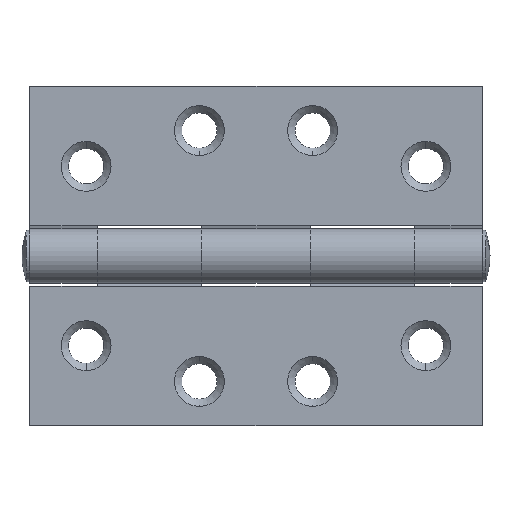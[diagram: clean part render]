
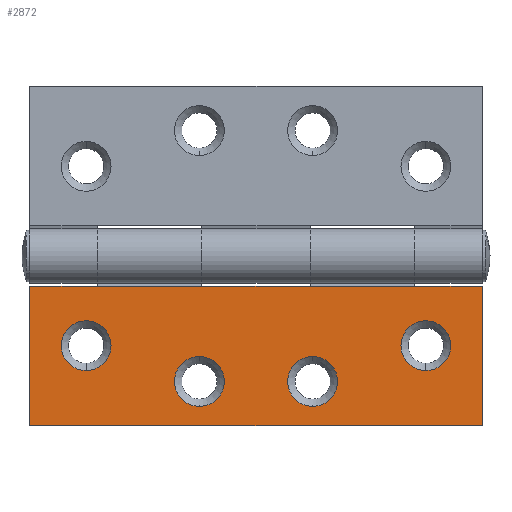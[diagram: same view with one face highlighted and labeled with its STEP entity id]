
A CAD part, left-side view. The second image highlights one B-rep face of the part: STEP entity #2872.
In plain terms, the highlighted planar face has unit normal (-1, 0, 0) as drawn and (0, 1, 0) by its records, which use the part's own axes.
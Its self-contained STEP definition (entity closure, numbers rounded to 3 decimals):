
#4 = DIRECTION ( 'NONE',  ( 0., 0., 1. ) ) ;
#58 = DIRECTION ( 'NONE',  ( 0., 0., -1. ) ) ;
#81 = VECTOR ( 'NONE', #1318, 1000. ) ;
#94 = VERTEX_POINT ( 'NONE', #283 ) ;
#100 = EDGE_LOOP ( 'NONE', ( #782, #1548 ) ) ;
#126 = DIRECTION ( 'NONE',  ( 0., 0., 1. ) ) ;
#178 = AXIS2_PLACEMENT_3D ( 'NONE', #209, #501, #2369 ) ;
#180 = VERTEX_POINT ( 'NONE', #817 ) ;
#209 = CARTESIAN_POINT ( 'NONE',  ( -12.5, 0., -21.07 ) ) ;
#220 = DIRECTION ( 'NONE',  ( -1., 0., 0. ) ) ;
#229 = EDGE_LOOP ( 'NONE', ( #1377, #965, #2638, #2717, #3442, #3188, #1193, #497 ) ) ;
#252 = VECTOR ( 'NONE', #2982, 1000. ) ;
#261 = EDGE_CURVE ( 'NONE', #1985, #2275, #1360, .T. ) ;
#283 = CARTESIAN_POINT ( 'NONE',  ( -12., 0., 0. ) ) ;
#289 = ORIENTED_EDGE ( 'NONE', *, *, #261, .T. ) ;
#291 = CARTESIAN_POINT ( 'NONE',  ( 50., 0., 0. ) ) ;
#317 = VECTOR ( 'NONE', #58, 1000. ) ;
#332 = AXIS2_PLACEMENT_3D ( 'NONE', #2202, #1605, #4 ) ;
#346 = VERTEX_POINT ( 'NONE', #906 ) ;
#394 = EDGE_CURVE ( 'NONE', #1931, #518, #1702, .T. ) ;
#408 = CIRCLE ( 'NONE', #1979, 5.5 ) ;
#429 = DIRECTION ( 'NONE',  ( 0., -1., 0. ) ) ;
#438 = EDGE_CURVE ( 'NONE', #94, #856, #2796, .T. ) ;
#472 = DIRECTION ( 'NONE',  ( 0., -1., 0. ) ) ;
#475 = ORIENTED_EDGE ( 'NONE', *, *, #3021, .T. ) ;
#489 = AXIS2_PLACEMENT_3D ( 'NONE', #1773, #429, #2311 ) ;
#497 = ORIENTED_EDGE ( 'NONE', *, *, #394, .T. ) ;
#501 = DIRECTION ( 'NONE',  ( 0., -1., 0. ) ) ;
#518 = VERTEX_POINT ( 'NONE', #1442 ) ;
#568 = DIRECTION ( 'NONE',  ( -1., 0., 0. ) ) ;
#661 = ORIENTED_EDGE ( 'NONE', *, *, #2881, .T. ) ;
#673 = CARTESIAN_POINT ( 'NONE',  ( 37.5, 0., -13.17 ) ) ;
#681 = DIRECTION ( 'NONE',  ( 0., -1., 0. ) ) ;
#754 = EDGE_CURVE ( 'NONE', #2044, #998, #2003, .T. ) ;
#757 = CARTESIAN_POINT ( 'NONE',  ( 37.5, 0., -7.67 ) ) ;
#782 = ORIENTED_EDGE ( 'NONE', *, *, #2786, .T. ) ;
#783 = FACE_OUTER_BOUND ( 'NONE', #229, .T. ) ;
#796 = DIRECTION ( 'NONE',  ( -1., 0., 0. ) ) ;
#817 = CARTESIAN_POINT ( 'NONE',  ( -12.5, 0., -26.57 ) ) ;
#856 = VERTEX_POINT ( 'NONE', #908 ) ;
#871 = ORIENTED_EDGE ( 'NONE', *, *, #1077, .T. ) ;
#877 = ORIENTED_EDGE ( 'NONE', *, *, #1611, .T. ) ;
#902 = VERTEX_POINT ( 'NONE', #2764 ) ;
#906 = CARTESIAN_POINT ( 'NONE',  ( -37.5, 0., -18.67 ) ) ;
#908 = CARTESIAN_POINT ( 'NONE',  ( -35., 0., 0. ) ) ;
#939 = LINE ( 'NONE', #1100, #252 ) ;
#952 = AXIS2_PLACEMENT_3D ( 'NONE', #2116, #472, #2343 ) ;
#958 = ORIENTED_EDGE ( 'NONE', *, *, #3004, .T. ) ;
#965 = ORIENTED_EDGE ( 'NONE', *, *, #2147, .F. ) ;
#998 = VERTEX_POINT ( 'NONE', #2293 ) ;
#1077 = EDGE_CURVE ( 'NONE', #1446, #180, #2790, .T. ) ;
#1100 = CARTESIAN_POINT ( 'NONE',  ( -50., 0., 0. ) ) ;
#1118 = AXIS2_PLACEMENT_3D ( 'NONE', #3066, #1724, #2279 ) ;
#1193 = ORIENTED_EDGE ( 'NONE', *, *, #1802, .T. ) ;
#1249 = CARTESIAN_POINT ( 'NONE',  ( 12.5, 0., -26.57 ) ) ;
#1318 = DIRECTION ( 'NONE',  ( -1., 0., 0. ) ) ;
#1360 = CIRCLE ( 'NONE', #1595, 5.5 ) ;
#1377 = ORIENTED_EDGE ( 'NONE', *, *, #2677, .F. ) ;
#1400 = CIRCLE ( 'NONE', #178, 5.5 ) ;
#1413 = DIRECTION ( 'NONE',  ( 0., -1., 0. ) ) ;
#1415 = VERTEX_POINT ( 'NONE', #1461 ) ;
#1427 = CARTESIAN_POINT ( 'NONE',  ( 50., 0., -30.87 ) ) ;
#1442 = CARTESIAN_POINT ( 'NONE',  ( -50., 0., -30.87 ) ) ;
#1446 = VERTEX_POINT ( 'NONE', #3052 ) ;
#1461 = CARTESIAN_POINT ( 'NONE',  ( -37.5, 0., -7.67 ) ) ;
#1548 = ORIENTED_EDGE ( 'NONE', *, *, #754, .T. ) ;
#1584 = CIRCLE ( 'NONE', #3030, 5.5 ) ;
#1595 = AXIS2_PLACEMENT_3D ( 'NONE', #673, #681, #2278 ) ;
#1605 = DIRECTION ( 'NONE',  ( 0., -1., 0. ) ) ;
#1606 = EDGE_LOOP ( 'NONE', ( #877, #958 ) ) ;
#1611 = EDGE_CURVE ( 'NONE', #1415, #346, #1945, .T. ) ;
#1628 = FACE_BOUND ( 'NONE', #1606, .T. ) ;
#1702 = LINE ( 'NONE', #3377, #3324 ) ;
#1710 = AXIS2_PLACEMENT_3D ( 'NONE', #3275, #2956, #1970 ) ;
#1724 = DIRECTION ( 'NONE',  ( 0., 1., 0. ) ) ;
#1735 = CARTESIAN_POINT ( 'NONE',  ( 37.5, 0., -13.17 ) ) ;
#1773 = CARTESIAN_POINT ( 'NONE',  ( -37.5, 0., -13.17 ) ) ;
#1793 = FACE_BOUND ( 'NONE', #100, .T. ) ;
#1802 = EDGE_CURVE ( 'NONE', #2010, #1931, #2563, .T. ) ;
#1893 = CARTESIAN_POINT ( 'NONE',  ( -50., 0., 0. ) ) ;
#1915 = LINE ( 'NONE', #291, #3083 ) ;
#1927 = EDGE_LOOP ( 'NONE', ( #289, #661 ) ) ;
#1931 = VERTEX_POINT ( 'NONE', #1427 ) ;
#1945 = CIRCLE ( 'NONE', #332, 5.5 ) ;
#1970 = DIRECTION ( 'NONE',  ( 0., 0., 1. ) ) ;
#1979 = AXIS2_PLACEMENT_3D ( 'NONE', #1735, #1413, #2498 ) ;
#1985 = VERTEX_POINT ( 'NONE', #757 ) ;
#1992 = LINE ( 'NONE', #2425, #3448 ) ;
#2003 = CIRCLE ( 'NONE', #1710, 5.5 ) ;
#2010 = VERTEX_POINT ( 'NONE', #2610 ) ;
#2044 = VERTEX_POINT ( 'NONE', #1249 ) ;
#2103 = LINE ( 'NONE', #2653, #81 ) ;
#2116 = CARTESIAN_POINT ( 'NONE',  ( -12.5, 0., -21.07 ) ) ;
#2123 = VERTEX_POINT ( 'NONE', #2407 ) ;
#2147 = EDGE_CURVE ( 'NONE', #856, #3265, #1992, .T. ) ;
#2202 = CARTESIAN_POINT ( 'NONE',  ( -37.5, 0., -13.17 ) ) ;
#2215 = VECTOR ( 'NONE', #3302, 1000. ) ;
#2251 = CARTESIAN_POINT ( 'NONE',  ( 50., 0., 0. ) ) ;
#2275 = VERTEX_POINT ( 'NONE', #2464 ) ;
#2278 = DIRECTION ( 'NONE',  ( 0., 0., 1. ) ) ;
#2279 = DIRECTION ( 'NONE',  ( 0., 0., 1. ) ) ;
#2293 = CARTESIAN_POINT ( 'NONE',  ( 12.5, 0., -15.57 ) ) ;
#2300 = FACE_BOUND ( 'NONE', #2567, .T. ) ;
#2311 = DIRECTION ( 'NONE',  ( 0., 0., 1. ) ) ;
#2340 = DIRECTION ( 'NONE',  ( -1., 0., 0. ) ) ;
#2343 = DIRECTION ( 'NONE',  ( 0., 0., 1. ) ) ;
#2369 = DIRECTION ( 'NONE',  ( 0., 0., 1. ) ) ;
#2407 = CARTESIAN_POINT ( 'NONE',  ( 12., 0., 0. ) ) ;
#2425 = CARTESIAN_POINT ( 'NONE',  ( 50., 0., 0. ) ) ;
#2462 = VECTOR ( 'NONE', #220, 1000. ) ;
#2464 = CARTESIAN_POINT ( 'NONE',  ( 37.5, 0., -18.67 ) ) ;
#2498 = DIRECTION ( 'NONE',  ( 0., 0., 1. ) ) ;
#2526 = PLANE ( 'NONE',  #1118 ) ;
#2563 = LINE ( 'NONE', #2770, #317 ) ;
#2567 = EDGE_LOOP ( 'NONE', ( #871, #475 ) ) ;
#2576 = EDGE_CURVE ( 'NONE', #902, #2123, #2103, .T. ) ;
#2610 = CARTESIAN_POINT ( 'NONE',  ( 50., 0., 0. ) ) ;
#2638 = ORIENTED_EDGE ( 'NONE', *, *, #438, .F. ) ;
#2653 = CARTESIAN_POINT ( 'NONE',  ( 50., 0., 0. ) ) ;
#2666 = FACE_BOUND ( 'NONE', #1927, .T. ) ;
#2677 = EDGE_CURVE ( 'NONE', #3265, #518, #939, .T. ) ;
#2717 = ORIENTED_EDGE ( 'NONE', *, *, #3075, .F. ) ;
#2764 = CARTESIAN_POINT ( 'NONE',  ( 35., 0., 0. ) ) ;
#2770 = CARTESIAN_POINT ( 'NONE',  ( 50., 0., 0. ) ) ;
#2772 = CARTESIAN_POINT ( 'NONE',  ( 12.5, 0., -21.07 ) ) ;
#2786 = EDGE_CURVE ( 'NONE', #998, #2044, #1584, .T. ) ;
#2790 = CIRCLE ( 'NONE', #952, 5.5 ) ;
#2796 = LINE ( 'NONE', #2251, #2215 ) ;
#2872 = ADVANCED_FACE ( 'NONE', ( #2666, #1793, #2300, #1628, #783 ), #2526, .T. ) ;
#2874 = CARTESIAN_POINT ( 'NONE',  ( 50., 0., 0. ) ) ;
#2881 = EDGE_CURVE ( 'NONE', #2275, #1985, #408, .T. ) ;
#2956 = DIRECTION ( 'NONE',  ( 0., -1., 0. ) ) ;
#2982 = DIRECTION ( 'NONE',  ( 0., 0., -1. ) ) ;
#3004 = EDGE_CURVE ( 'NONE', #346, #1415, #3334, .T. ) ;
#3021 = EDGE_CURVE ( 'NONE', #180, #1446, #1400, .T. ) ;
#3030 = AXIS2_PLACEMENT_3D ( 'NONE', #2772, #3062, #126 ) ;
#3052 = CARTESIAN_POINT ( 'NONE',  ( -12.5, 0., -15.57 ) ) ;
#3062 = DIRECTION ( 'NONE',  ( 0., -1., 0. ) ) ;
#3066 = CARTESIAN_POINT ( 'NONE',  ( 50., 0., 0. ) ) ;
#3075 = EDGE_CURVE ( 'NONE', #2123, #94, #3291, .T. ) ;
#3083 = VECTOR ( 'NONE', #568, 1000. ) ;
#3188 = ORIENTED_EDGE ( 'NONE', *, *, #3216, .F. ) ;
#3216 = EDGE_CURVE ( 'NONE', #2010, #902, #1915, .T. ) ;
#3265 = VERTEX_POINT ( 'NONE', #1893 ) ;
#3275 = CARTESIAN_POINT ( 'NONE',  ( 12.5, 0., -21.07 ) ) ;
#3291 = LINE ( 'NONE', #2874, #2462 ) ;
#3302 = DIRECTION ( 'NONE',  ( -1., 0., 0. ) ) ;
#3324 = VECTOR ( 'NONE', #2340, 1000. ) ;
#3334 = CIRCLE ( 'NONE', #489, 5.5 ) ;
#3377 = CARTESIAN_POINT ( 'NONE',  ( 50., 0., -30.87 ) ) ;
#3442 = ORIENTED_EDGE ( 'NONE', *, *, #2576, .F. ) ;
#3448 = VECTOR ( 'NONE', #796, 1000. ) ;
